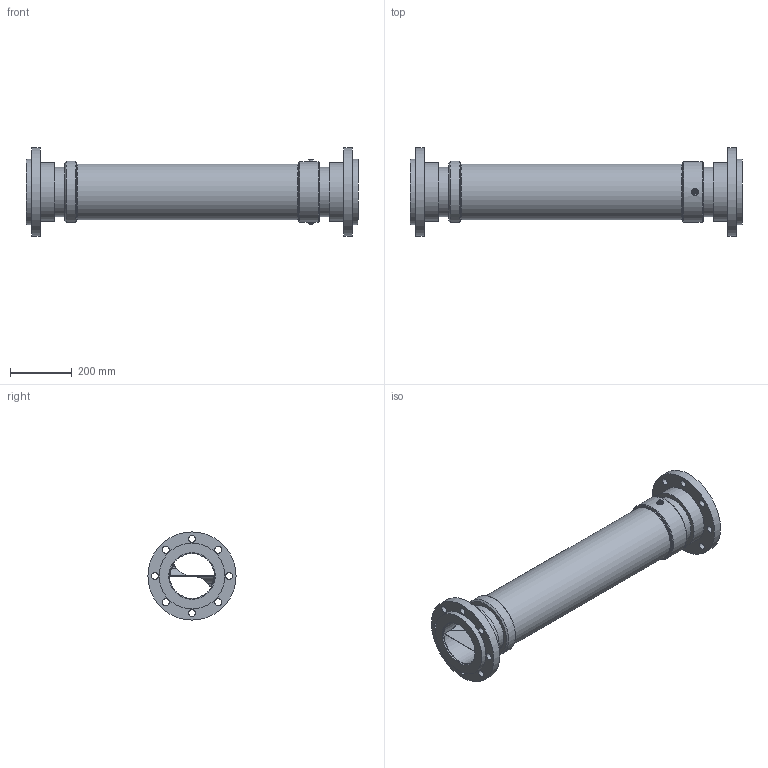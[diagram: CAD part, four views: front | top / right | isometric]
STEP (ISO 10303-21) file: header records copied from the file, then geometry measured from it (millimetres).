
FILE_DESCRIPTION(/* description */ (''),/* implementation_level */ '2;1');
FILE_NAME(/* name */ 'TU H-B 3000_Raccords a brides_V1.0_Simplifier.stp',/* time_stamp */ '2024-05-01T17:07:59+02:00',/* author */ ('MassimoMaselli'),/* organization */ (''),/* preprocessor_version */ 'ST-DEVELOPER v20',/* originating_system */ 'Autodesk Inventor 2024',/* authorisation */ '');
FILE_SCHEMA (('AUTOMOTIVE_DESIGN { 1 0 10303 214 3 1 1 }'));
Length unit declared in the file: millimetre
Products named in the file (1): TU H-B 3000_Raccords a brides_V1.0_Simplifier
Bounding box: 1073 x 285 x 285 mm (x, y, z)
Volume: 9965235.5 mm3; surface area: 2590048.9 mm2
Topology: 12 solids, 14 shells, 1008 faces, 2595 edges, 1708 vertices
Faces by surface type: plane 475, cylinder 248, bspline 179, cone 74, torus 32
Full cylindrical faces by diameter (mm): 0.6 x8, 0.65 x8, 0.7 x8, 1 x9, 1.1 x8, 1.17 x8, 1.221 x2, 1.24 x8, 1.567 x1, 5 x2, 10 x2, 10.25 x5, 10.376 x1, 11 x1, 11.084 x1, 11.9 x1, 12 x4, 13.148 x1, 13.3 x1, 14 x1, 15.5 x1, 22 x17, 144.7 x1, 150 x2, 160 x3, 160.5 x4, 165.9 x2, 171 x1, 178.7 x2, 179 x4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
Entity records: 39349 total; most frequent: CARTESIAN_POINT 13890, ORIENTED_EDGE 5166, DIRECTION 4766, EDGE_CURVE 2584, VERTEX_POINT 1708, AXIS2_PLACEMENT_3D 1699, LINE 1368, VECTOR 1368
